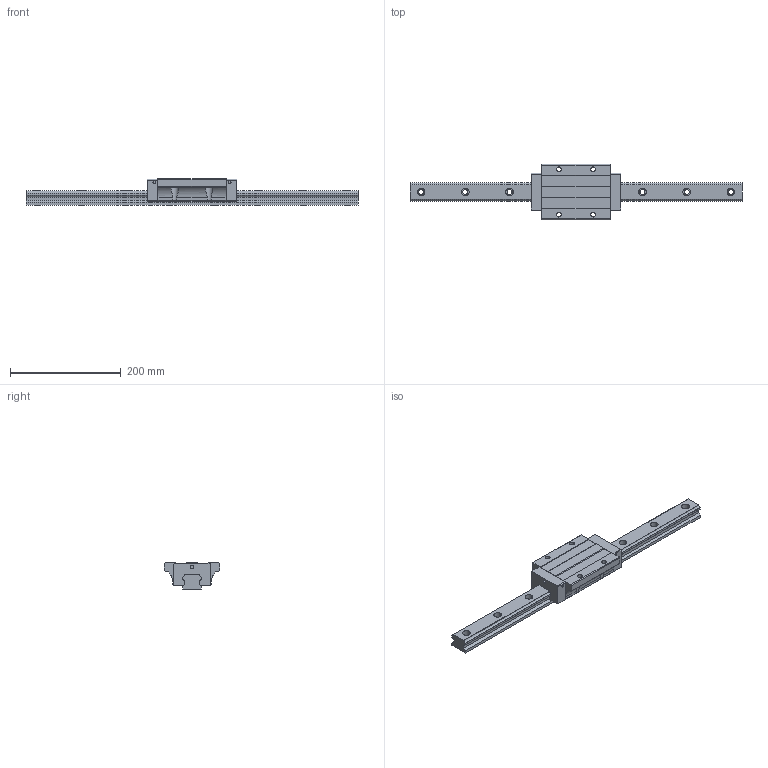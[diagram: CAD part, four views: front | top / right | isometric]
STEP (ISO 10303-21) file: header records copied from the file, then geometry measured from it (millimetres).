
FILE_DESCRIPTION (( 'STEP AP203' ), '1' );
FILE_NAME ('TRH35FE-ZN.STEP', '2024-05-14T08:06:14', ( '' ), ( '' ), 'SwSTEP 2.0', 'SolidWorks 2022', '' );
FILE_SCHEMA (( 'CONFIG_CONTROL_DESIGN' ));
Length unit declared in the file: millimetre
Products named in the file (1): TRH35FE-ZN
Bounding box: 600 x 100 x 48 mm (x, y, z)
Volume: 854092.7 mm3; surface area: 138658.7 mm2
Topology: 2 solids, 2 shells, 212 faces, 580 edges, 386 vertices
Faces by surface type: cylinder 112, plane 100
Entity records: 7521 total; most frequent: CARTESIAN_POINT 1873, DIRECTION 1174, ORIENTED_EDGE 1160, EDGE_CURVE 580, AXIS2_PLACEMENT_3D 409, VERTEX_POINT 386, LINE 356, VECTOR 356
